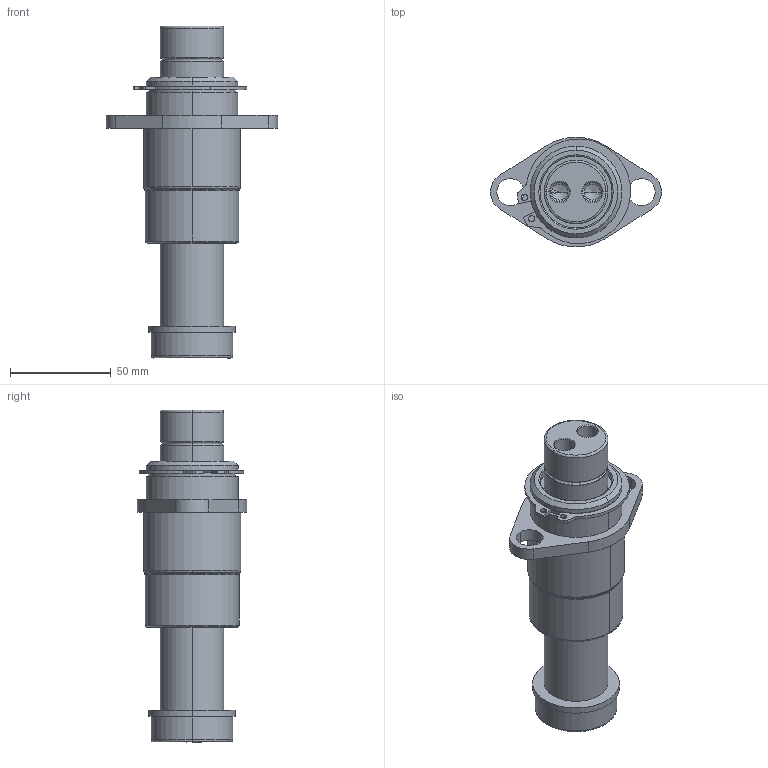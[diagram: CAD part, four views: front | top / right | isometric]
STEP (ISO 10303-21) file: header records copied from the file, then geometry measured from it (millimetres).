
FILE_DESCRIPTION (( 'STEP AP214' ), '1' );
FILE_NAME ('GK122-N3-1-TB-E-XXX.STEP', '2020-09-21T18:19:12', ( '' ), ( '' ), 'SwSTEP 2.0', 'SolidWorks 2017', '' );
FILE_SCHEMA (( 'AUTOMOTIVE_DESIGN' ));
Length unit declared in the file: inch
Products named in the file (7): RetainingRing; GK122-N3-1-TB-E-XXX; GK122-DampeningWasher; GK122-E-XXX-GuidePin; GK1.25-N3-1-TB-Base
Assembly tree (6 placements, depth 3):
  GK122-N3-1-TB-E-XXX
    GK1.25-N3-1-TB-Base
      GK1.25-N3-1-TB-Base
      RetainingRing
    GK122-E-XXX-GuidePin
      GK122-E-XXX-GuidePin
      GK122-DampeningWasher
Bounding box: 85.09 x 54.52 x 165.1 mm (x, y, z)
Volume: 217377.5 mm3; surface area: 50964.3 mm2
Topology: 4 solids, 4 shells, 125 faces, 287 edges, 174 vertices
Faces by surface type: cylinder 59, plane 24, cone 22, bspline 20
Entity records: 4512 total; most frequent: CARTESIAN_POINT 1225, DIRECTION 667, ORIENTED_EDGE 566, EDGE_CURVE 283, AXIS2_PLACEMENT_3D 278, VERTEX_POINT 174, CIRCLE 162, EDGE_LOOP 145
